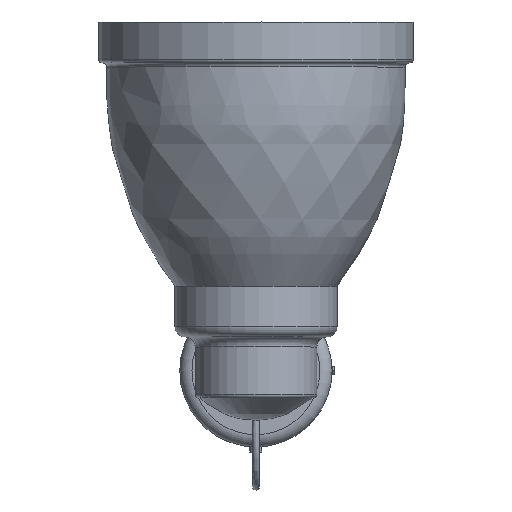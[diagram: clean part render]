
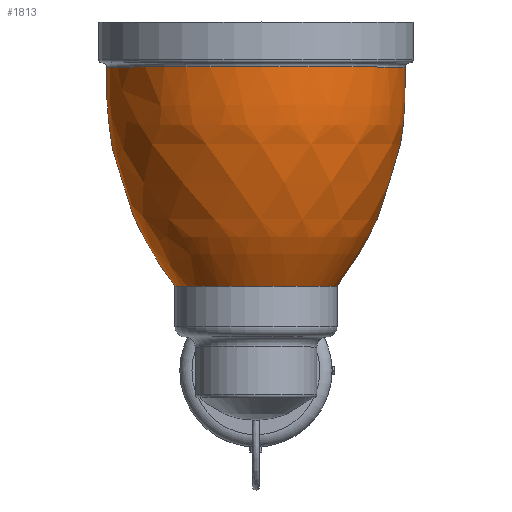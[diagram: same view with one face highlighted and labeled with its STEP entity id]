
A CAD part, top view. The second image highlights one B-rep face of the part: STEP entity #1813.
In plain terms, the highlighted free-form (B-spline) face has degree [2, 2] with [3, 9] control points.
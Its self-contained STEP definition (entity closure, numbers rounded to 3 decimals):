
#126=(
BOUNDED_SURFACE()
B_SPLINE_SURFACE(2,2,((#3261,#3262,#3263,#3264,#3265,#3266,#3267,#3268,
#3269),(#3270,#3271,#3272,#3273,#3274,#3275,#3276,#3277,#3278),(#3279,#3280,
#3281,#3282,#3283,#3284,#3285,#3286,#3287)),.UNSPECIFIED.,.F.,.T.,.F.)
B_SPLINE_SURFACE_WITH_KNOTS((3,3),(3,2,2,2,3),(-0.658,0.054),
(-3.142,-1.571,0.,1.571,3.142),
 .UNSPECIFIED.)
GEOMETRIC_REPRESENTATION_ITEM()
RATIONAL_B_SPLINE_SURFACE(((1.,0.707,1.,0.707,1.,
0.707,1.,0.707,1.),(0.937,0.663,
0.937,0.663,0.937,0.663,
0.937,0.663,0.937),(1.,0.707,
1.,0.707,1.,0.707,1.,0.707,1.)))
REPRESENTATION_ITEM('')
SURFACE()
);
#230=FACE_OUTER_BOUND('',#347,.T.);
#347=EDGE_LOOP('',(#1314,#1315,#1316,#1317,#1318,#1319,#1320));
#630=CIRCLE('',#2155,40.);
#631=CIRCLE('',#2156,40.);
#632=CIRCLE('',#2157,40.);
#633=CIRCLE('',#2158,73.628);
#634=CIRCLE('',#2159,73.628);
#635=CIRCLE('',#2160,161.98);
#809=VERTEX_POINT('',#3254);
#810=VERTEX_POINT('',#3255);
#811=VERTEX_POINT('',#3257);
#812=VERTEX_POINT('',#3288);
#813=VERTEX_POINT('',#3289);
#1004=EDGE_CURVE('',#809,#810,#630,.T.);
#1005=EDGE_CURVE('',#811,#809,#631,.T.);
#1007=EDGE_CURVE('',#810,#811,#632,.T.);
#1008=EDGE_CURVE('',#812,#813,#633,.T.);
#1009=EDGE_CURVE('',#813,#812,#634,.T.);
#1010=EDGE_CURVE('',#813,#810,#635,.T.);
#1314=ORIENTED_EDGE('',*,*,#1008,.F.);
#1315=ORIENTED_EDGE('',*,*,#1009,.F.);
#1316=ORIENTED_EDGE('',*,*,#1010,.T.);
#1317=ORIENTED_EDGE('',*,*,#1007,.T.);
#1318=ORIENTED_EDGE('',*,*,#1005,.T.);
#1319=ORIENTED_EDGE('',*,*,#1004,.T.);
#1320=ORIENTED_EDGE('',*,*,#1010,.F.);
#1813=ADVANCED_FACE('',(#230),#126,.F.);
#2155=AXIS2_PLACEMENT_3D('',#3256,#2530,#2531);
#2156=AXIS2_PLACEMENT_3D('',#3258,#2532,#2533);
#2157=AXIS2_PLACEMENT_3D('',#3260,#2535,#2536);
#2158=AXIS2_PLACEMENT_3D('',#3290,#2537,#2538);
#2159=AXIS2_PLACEMENT_3D('',#3291,#2539,#2540);
#2160=AXIS2_PLACEMENT_3D('',#3292,#2541,#2542);
#2530=DIRECTION('center_axis',(0.,-1.,0.));
#2531=DIRECTION('ref_axis',(1.,0.,0.));
#2532=DIRECTION('center_axis',(0.,-1.,0.));
#2533=DIRECTION('ref_axis',(1.,0.,0.));
#2535=DIRECTION('center_axis',(0.,-1.,0.));
#2536=DIRECTION('ref_axis',(1.,0.,0.));
#2537=DIRECTION('center_axis',(0.,-1.,0.));
#2538=DIRECTION('ref_axis',(1.,0.,0.));
#2539=DIRECTION('center_axis',(0.,-1.,0.));
#2540=DIRECTION('ref_axis',(1.,0.,0.));
#2541=DIRECTION('center_axis',(-1.,0.,0.));
#2542=DIRECTION('ref_axis',(0.,0.,1.));
#3254=CARTESIAN_POINT('',(40.,130.,0.));
#3255=CARTESIAN_POINT('',(0.,130.,40.));
#3256=CARTESIAN_POINT('Origin',(0.,130.,0.));
#3257=CARTESIAN_POINT('',(-40.,130.,0.));
#3258=CARTESIAN_POINT('Origin',(0.,130.,0.));
#3260=CARTESIAN_POINT('Origin',(0.,130.,0.));
#3261=CARTESIAN_POINT('Ctrl Pts',(0.,130.,40.));
#3262=CARTESIAN_POINT('Ctrl Pts',(-40.,130.,40.));
#3263=CARTESIAN_POINT('Ctrl Pts',(-40.,130.,0.));
#3264=CARTESIAN_POINT('Ctrl Pts',(-40.,130.,-40.));
#3265=CARTESIAN_POINT('Ctrl Pts',(0.,130.,-40.));
#3266=CARTESIAN_POINT('Ctrl Pts',(40.,130.,-40.));
#3267=CARTESIAN_POINT('Ctrl Pts',(40.,130.,0.));
#3268=CARTESIAN_POINT('Ctrl Pts',(40.,130.,40.));
#3269=CARTESIAN_POINT('Ctrl Pts',(0.,130.,40.));
#3270=CARTESIAN_POINT('Ctrl Pts',(0.,82.313,76.894));
#3271=CARTESIAN_POINT('Ctrl Pts',(-76.894,82.313,76.894));
#3272=CARTESIAN_POINT('Ctrl Pts',(-76.894,82.313,0.));
#3273=CARTESIAN_POINT('Ctrl Pts',(-76.894,82.313,-76.894));
#3274=CARTESIAN_POINT('Ctrl Pts',(0.,82.313,-76.894));
#3275=CARTESIAN_POINT('Ctrl Pts',(76.894,82.313,-76.894));
#3276=CARTESIAN_POINT('Ctrl Pts',(76.894,82.313,0.));
#3277=CARTESIAN_POINT('Ctrl Pts',(76.894,82.313,76.894));
#3278=CARTESIAN_POINT('Ctrl Pts',(0.,82.313,76.894));
#3279=CARTESIAN_POINT('Ctrl Pts',(0.,22.108,73.628));
#3280=CARTESIAN_POINT('Ctrl Pts',(-73.628,22.108,73.628));
#3281=CARTESIAN_POINT('Ctrl Pts',(-73.628,22.108,0.));
#3282=CARTESIAN_POINT('Ctrl Pts',(-73.628,22.108,-73.628));
#3283=CARTESIAN_POINT('Ctrl Pts',(0.,22.108,-73.628));
#3284=CARTESIAN_POINT('Ctrl Pts',(73.628,22.108,-73.628));
#3285=CARTESIAN_POINT('Ctrl Pts',(73.628,22.108,0.));
#3286=CARTESIAN_POINT('Ctrl Pts',(73.628,22.108,73.628));
#3287=CARTESIAN_POINT('Ctrl Pts',(0.,22.108,73.628));
#3288=CARTESIAN_POINT('',(73.628,22.108,0.));
#3289=CARTESIAN_POINT('',(0.,22.108,73.628));
#3290=CARTESIAN_POINT('Origin',(0.,22.108,0.));
#3291=CARTESIAN_POINT('Origin',(0.,22.108,0.));
#3292=CARTESIAN_POINT('Origin',(0.,30.882,-88.114));
